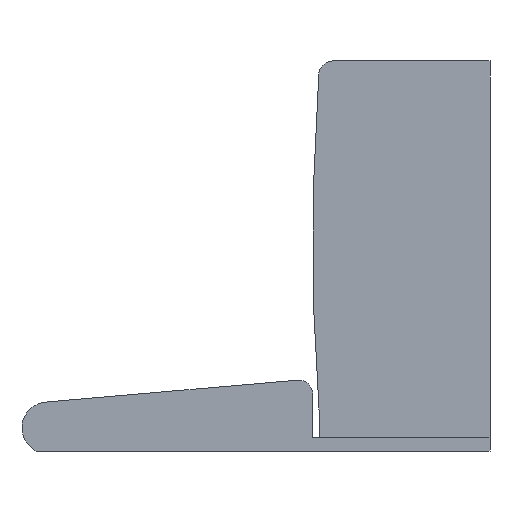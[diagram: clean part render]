
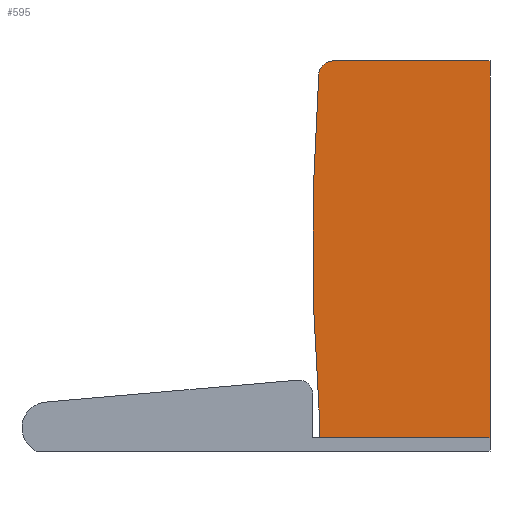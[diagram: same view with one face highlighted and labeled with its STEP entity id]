
A CAD part, left-side view. The second image highlights one B-rep face of the part: STEP entity #595.
In plain terms, the highlighted planar face has unit normal (-1, 0, 0).
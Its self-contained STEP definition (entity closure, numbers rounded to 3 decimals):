
#4 = VERTEX_POINT ( 'NONE', #104 ) ;
#52 = DIRECTION ( 'NONE',  ( 0., 1., 0. ) ) ;
#61 = DIRECTION ( 'NONE',  ( 1., 0., 0. ) ) ;
#74 = VECTOR ( 'NONE', #234, 1000. ) ;
#79 = ORIENTED_EDGE ( 'NONE', *, *, #150, .T. ) ;
#104 = CARTESIAN_POINT ( 'NONE',  ( 747.5, 241.399, 531.447 ) ) ;
#106 = CARTESIAN_POINT ( 'NONE',  ( 747.5, 221.451, 530. ) ) ;
#112 = DIRECTION ( 'NONE',  ( 0., 0., 1. ) ) ;
#121 = LINE ( 'NONE', #498, #74 ) ;
#125 = EDGE_CURVE ( 'NONE', #731, #372, #311, .T. ) ;
#136 = VECTOR ( 'NONE', #200, 1000. ) ;
#138 = CARTESIAN_POINT ( 'NONE',  ( 747.5, 221.451, 530. ) ) ;
#149 = ORIENTED_EDGE ( 'NONE', *, *, #511, .T. ) ;
#150 = EDGE_CURVE ( 'NONE', #517, #704, #628, .T. ) ;
#200 = DIRECTION ( 'NONE',  ( 0., 0., -1. ) ) ;
#203 = VECTOR ( 'NONE', #52, 1000. ) ;
#219 = DIRECTION ( 'NONE',  ( 0., 0., 1. ) ) ;
#223 = CARTESIAN_POINT ( 'NONE',  ( 747.5, 0., 550. ) ) ;
#234 = DIRECTION ( 'NONE',  ( 0., -1., 0. ) ) ;
#253 = VERTEX_POINT ( 'NONE', #430 ) ;
#295 = CARTESIAN_POINT ( 'NONE',  ( 747.5, 0., 19. ) ) ;
#311 = LINE ( 'NONE', #573, #136 ) ;
#312 = CARTESIAN_POINT ( 'NONE',  ( 747.5, 240., 19. ) ) ;
#316 = ORIENTED_EDGE ( 'NONE', *, *, #470, .T. ) ;
#330 = EDGE_CURVE ( 'NONE', #4, #731, #375, .T. ) ;
#365 = FACE_OUTER_BOUND ( 'NONE', #456, .T. ) ;
#372 = VERTEX_POINT ( 'NONE', #312 ) ;
#375 = CIRCLE ( 'NONE', #482, 3281.8 ) ;
#413 = CARTESIAN_POINT ( 'NONE',  ( 747.5, 240., 38. ) ) ;
#430 = CARTESIAN_POINT ( 'NONE',  ( 747.5, 221.451, 550. ) ) ;
#456 = EDGE_LOOP ( 'NONE', ( #641, #149, #79, #675, #316, #765 ) ) ;
#458 = CARTESIAN_POINT ( 'NONE',  ( 747.5, 0., 19. ) ) ;
#470 = EDGE_CURVE ( 'NONE', #253, #4, #667, .T. ) ;
#482 = AXIS2_PLACEMENT_3D ( 'NONE', #558, #664, #112 ) ;
#487 = LINE ( 'NONE', #666, #203 ) ;
#497 = AXIS2_PLACEMENT_3D ( 'NONE', #138, #61, #688 ) ;
#498 = CARTESIAN_POINT ( 'NONE',  ( 747.5, 240., 19. ) ) ;
#511 = EDGE_CURVE ( 'NONE', #372, #517, #121, .T. ) ;
#517 = VERTEX_POINT ( 'NONE', #295 ) ;
#558 = CARTESIAN_POINT ( 'NONE',  ( 747.5, -3031.8, 294. ) ) ;
#571 = EDGE_CURVE ( 'NONE', #704, #253, #487, .T. ) ;
#573 = CARTESIAN_POINT ( 'NONE',  ( 747.5, 240., 38. ) ) ;
#577 = DIRECTION ( 'NONE',  ( 0., 0., 1. ) ) ;
#595 = ADVANCED_FACE ( 'NONE', ( #365 ), #791, .F. ) ;
#606 = VECTOR ( 'NONE', #577, 1000. ) ;
#628 = LINE ( 'NONE', #458, #606 ) ;
#641 = ORIENTED_EDGE ( 'NONE', *, *, #125, .T. ) ;
#664 = DIRECTION ( 'NONE',  ( -1., 0., 0. ) ) ;
#666 = CARTESIAN_POINT ( 'NONE',  ( 747.5, 0., 550. ) ) ;
#667 = CIRCLE ( 'NONE', #702, 20. ) ;
#675 = ORIENTED_EDGE ( 'NONE', *, *, #571, .T. ) ;
#688 = DIRECTION ( 'NONE',  ( 0., 0., 1. ) ) ;
#702 = AXIS2_PLACEMENT_3D ( 'NONE', #106, #764, #219 ) ;
#704 = VERTEX_POINT ( 'NONE', #223 ) ;
#731 = VERTEX_POINT ( 'NONE', #413 ) ;
#764 = DIRECTION ( 'NONE',  ( -1., 0., 0. ) ) ;
#765 = ORIENTED_EDGE ( 'NONE', *, *, #330, .T. ) ;
#791 = PLANE ( 'NONE',  #497 ) ;
